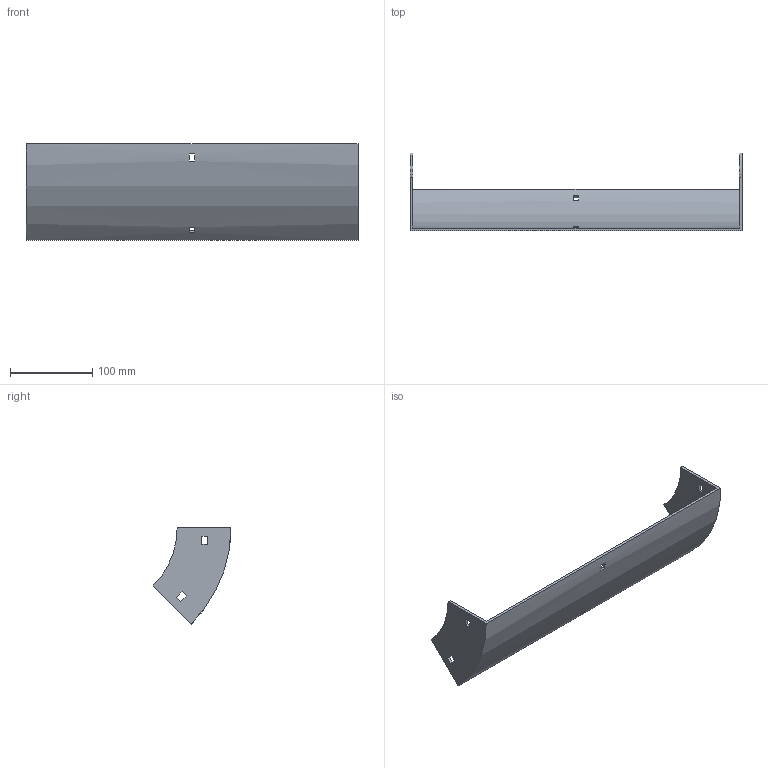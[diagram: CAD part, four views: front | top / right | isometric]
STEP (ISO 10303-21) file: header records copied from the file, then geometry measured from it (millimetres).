
FILE_DESCRIPTION (( 'STEP AP214' ), '1' );
FILE_NAME ('31B1H400.step', '2025-02-21T09:47:19', ( '' ), ( '' ), 'SwSTEP 2.0', 'SolidWorks 2023', '' );
FILE_SCHEMA (( 'AUTOMOTIVE_DESIGN' ));
Length unit declared in the file: millimetre
Products named in the file (1): 31B1H400
Bounding box: 404 x 94.79 x 117.03 mm (x, y, z)
Volume: 225114.4 mm3; surface area: 133586.4 mm2
Topology: 1 solids, 1 shells, 34 faces, 96 edges, 64 vertices
Faces by surface type: plane 30, cylinder 4
Entity records: 1143 total; most frequent: CARTESIAN_POINT 195, ORIENTED_EDGE 192, DIRECTION 182, EDGE_CURVE 96, VECTOR 80, LINE 80, VERTEX_POINT 64, AXIS2_PLACEMENT_3D 51
